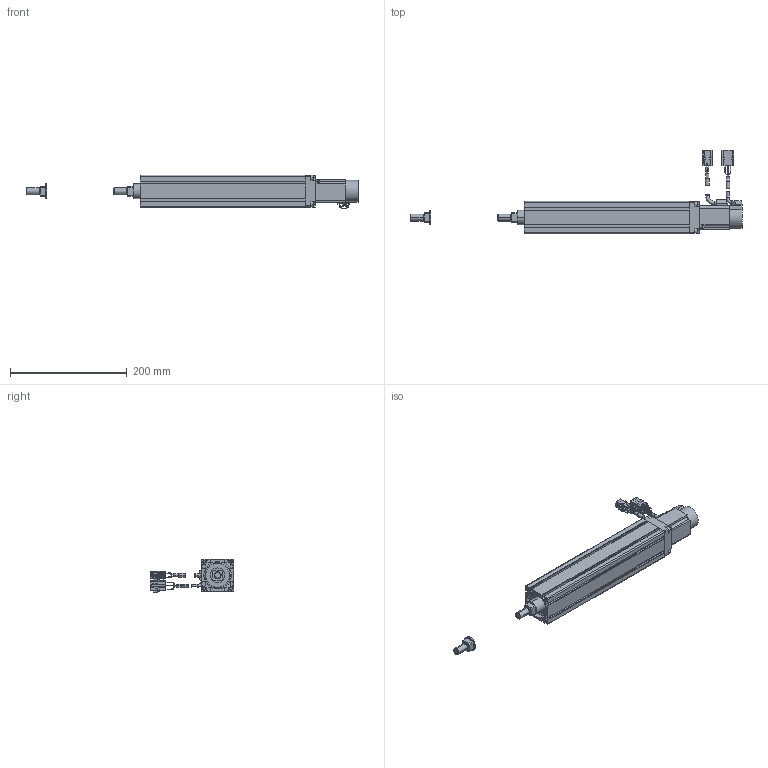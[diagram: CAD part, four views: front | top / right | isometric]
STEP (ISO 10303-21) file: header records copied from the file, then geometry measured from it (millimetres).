
FILE_DESCRIPTION((''),'2;1');
FILE_NAME('BET5E-ST-C_N-15_IGS_PRT','2017-06-18T',(' '),(''),'PRO/ENGINEER BY PARAMETRIC TECHNOLOGY CORPORATION, 2015030','PRO/ENGINEER BY PARAMETRIC TECHNOLOGY CORPORATION, 2015030','');
FILE_SCHEMA(('CONFIG_CONTROL_DESIGN'));
Length unit declared in the file: millimetre
Products named in the file (1): BET5E-ST-C_N-15_IGS_PRT
Bounding box: 568.5 x 142.55 x 57.56 mm (x, y, z)
Volume: 725228.9 mm3; surface area: 206399.3 mm2
Topology: 7 solids, 33 shells, 894 faces, 2311 edges, 1492 vertices
Faces by surface type: plane 557, cylinder 245, torus 66, cone 22, sphere 4
Entity records: 27364 total; most frequent: CARTESIAN_POINT 4954, DIRECTION 4711, ORIENTED_EDGE 4550, EDGE_CURVE 2303, VECTOR 1617, LINE 1617, AXIS2_PLACEMENT_3D 1547, VERTEX_POINT 1492
